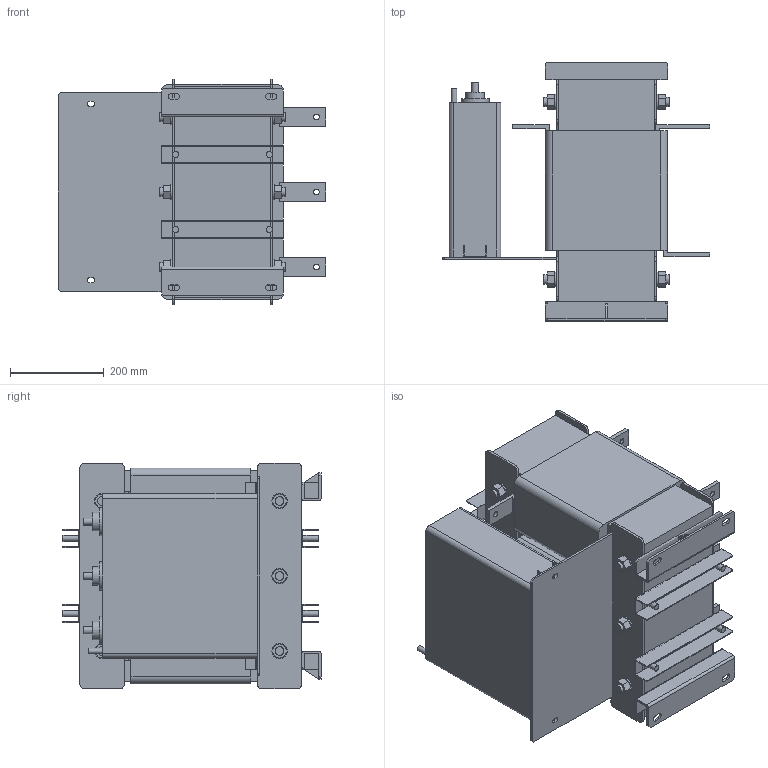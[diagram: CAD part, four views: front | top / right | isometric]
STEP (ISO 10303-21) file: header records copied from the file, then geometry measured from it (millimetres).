
FILE_DESCRIPTION(/* description */ (''),/* implementation_level */ '2;1');
FILE_NAME(/* name */ 'Sin-T6-500.stp',/* time_stamp */ '2025-02-25T11:05:59+04:00',/* author */ ('Лео'),/* organization */ (''),/* preprocessor_version */ 'ST-DEVELOPER v19.2',/* originating_system */ 'Autodesk Inventor 2024',/* authorisation */ '');
FILE_SCHEMA (('AUTOMOTIVE_DESIGN { 1 0 10303 214 3 1 1 }'));
Length unit declared in the file: millimetre
Products named in the file (1): Sin-T6-500
Bounding box: 570 x 550 x 480 mm (x, y, z)
Volume: 63328445.4 mm3; surface area: 2758959.9 mm2
Topology: 26 solids, 26 shells, 581 faces, 1325 edges, 826 vertices
Faces by surface type: plane 470, cylinder 111
Full cylindrical faces by diameter (mm): 12 x10, 13 x12, 15 x3, 19 x12, 32.562 x12, 40 x3, 60 x3
Entity records: 16139 total; most frequent: DIRECTION 2791, CARTESIAN_POINT 2733, ORIENTED_EDGE 2650, EDGE_CURVE 1325, LINE 1023, VECTOR 1023, AXIS2_PLACEMENT_3D 884, VERTEX_POINT 826
